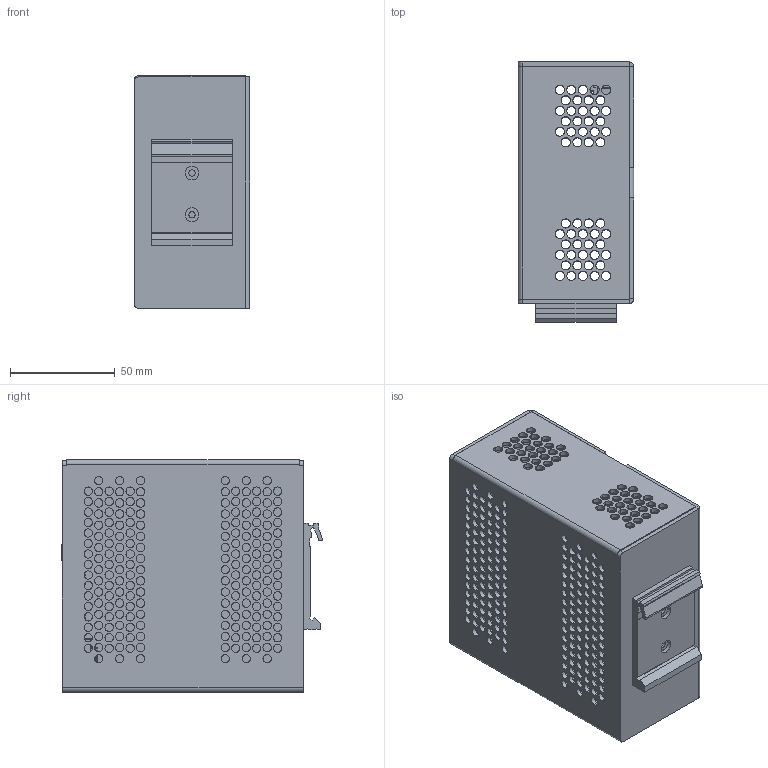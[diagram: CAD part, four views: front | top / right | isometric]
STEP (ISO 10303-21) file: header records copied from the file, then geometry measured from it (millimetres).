
FILE_DESCRIPTION (( 'STEP AP214' ), '1' );
FILE_NAME ('RM-012-G.STEP', '2026-05-20T11:33:43', ( '' ), ( '' ), 'SwSTEP 2.0', 'SolidWorks 2022', '' );
FILE_SCHEMA (( 'AUTOMOTIVE_DESIGN' ));
Length unit declared in the file: millimetre
Products named in the file (1): RM-012-G
Bounding box: 55 x 124.45 x 111 mm (x, y, z)
Volume: 96545.5 mm3; surface area: 111334.2 mm2
Topology: 44 solids, 44 shells, 6222 faces, 17137 edges, 11101 vertices
Faces by surface type: plane 3483, cylinder 1848, bspline 871, torus 20
Entity records: 300104 total; most frequent: CARTESIAN_POINT 76096, ORIENTED_EDGE 34210, DIRECTION 28985, EDGE_CURVE 17105, LINE 11661, VECTOR 11661, VERTEX_POINT 11101, AXIS2_PLACEMENT_3D 8662
